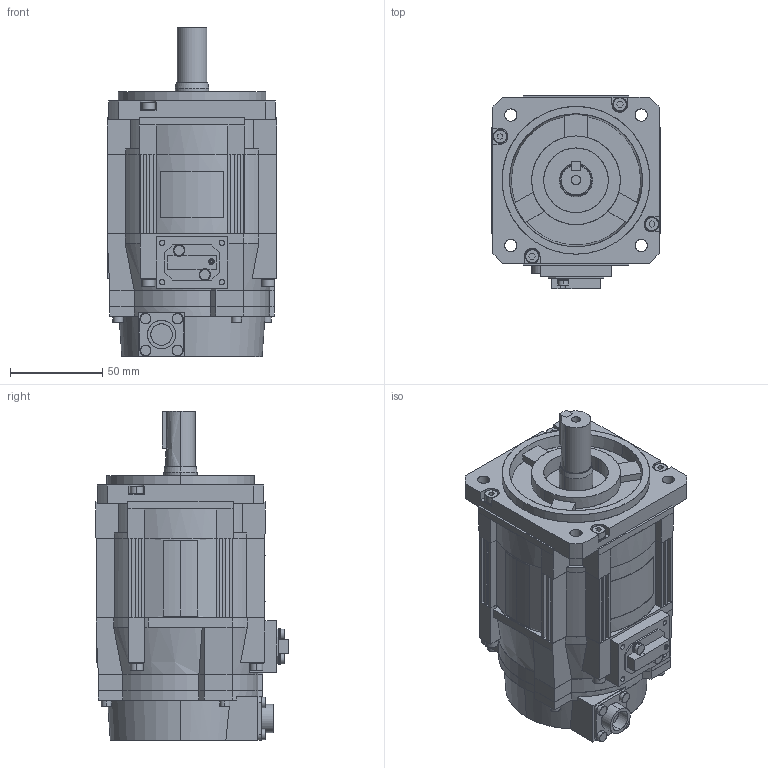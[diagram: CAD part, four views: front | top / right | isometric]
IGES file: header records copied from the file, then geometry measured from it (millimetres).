
Start section: SolidWorks IGES file using analytic representation for surfaces
Global section: file name: C:\YASKAWA\sgmgv_05__a61.IGS; native system: SolidWorks 2006 by SolidWorks Corporation; preprocessor: SolidWorks 2006 by SolidWorks Corporation; author: yamanouchi; date: 090206.151345; units: millimetre
Bounding box: 92 x 104.5 x 178.6 mm (x, y, z)
Surface area: 87600.6 mm2 (no closed solid volume)
Topology: 0 solids, 0 shells, 634 faces, 7589 edges, 7589 vertices
Faces by surface type: bspline 443, revolution 191
